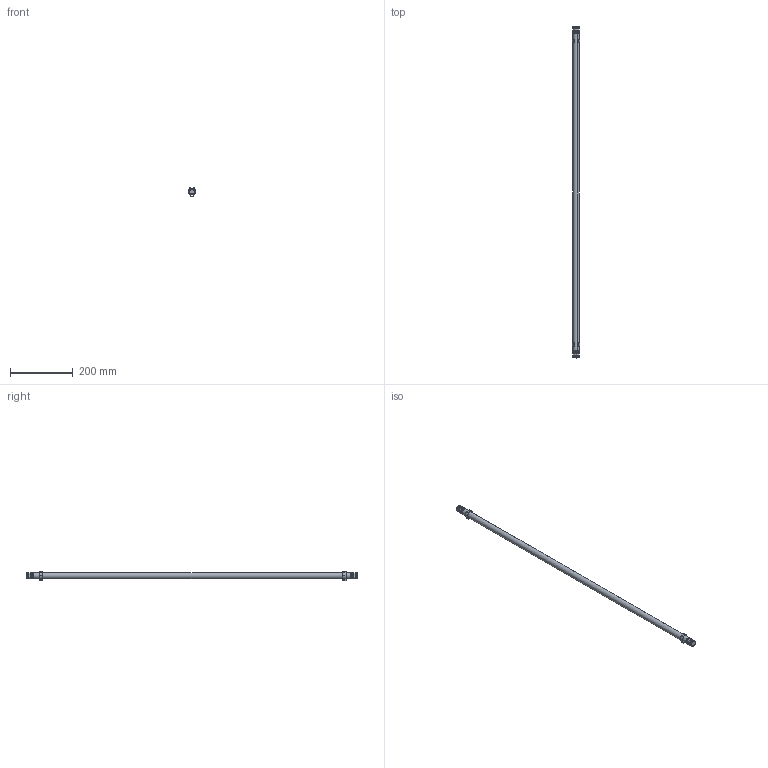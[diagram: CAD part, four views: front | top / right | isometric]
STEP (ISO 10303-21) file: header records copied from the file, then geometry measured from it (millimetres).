
FILE_DESCRIPTION (( 'STEP AP203' ), '1' );
FILE_NAME ('MINIFLUX LINEA WALL C.STEP', '2024-02-20T09:41:00', ( '' ), ( '' ), 'SwSTEP 2.0', 'SolidWorks 2016', '' );
FILE_SCHEMA (( 'CONFIG_CONTROL_DESIGN' ));
Length unit declared in the file: millimetre
Products named in the file (7): 0-TAP-0001-0-00; MINIFLUX LINEA WALL C; Molla; Tubo miniflux 1m; 0-TAP-0003-0-00; MINIFLUX LINEA CORPO; 0-TAP-0002-0-00
Assembly tree (8 placements, depth 3):
  MINIFLUX LINEA WALL C
    MINIFLUX LINEA CORPO
      Tubo miniflux 1m
      0-TAP-0002-0-00  x2
      0-TAP-0001-0-00
      0-TAP-0003-0-00
    Molla  x2
Bounding box: 23.2 x 1060 x 28.92 mm (x, y, z)
Volume: 125447.8 mm3; surface area: 126754.6 mm2
Topology: 7 solids, 7 shells, 349 faces, 978 edges, 648 vertices
Faces by surface type: cylinder 304, plane 37, bspline 4, cone 4
Entity records: 11179 total; most frequent: CARTESIAN_POINT 2082, DIRECTION 1980, ORIENTED_EDGE 1696, EDGE_CURVE 848, AXIS2_PLACEMENT_3D 840, VERTEX_POINT 562, CIRCLE 530, EDGE_LOOP 320
